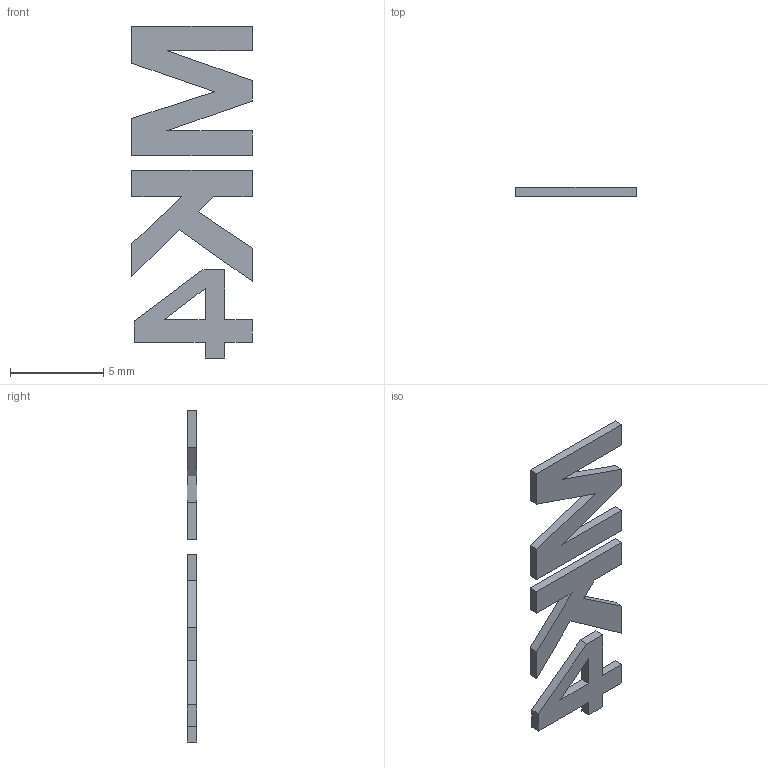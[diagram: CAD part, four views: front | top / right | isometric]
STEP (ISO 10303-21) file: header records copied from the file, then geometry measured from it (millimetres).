
FILE_DESCRIPTION(/* description */ ('STEP AP242','CAx-IF Rec.Pracs.---Representation and Presentation of Product Manufacturing Information (PMI)---4.0---2014-10-13','CAx-IF Rec.Pracs.---3D Tessellated Geometry---0.4---2014-09-14','2;1'),/* implementation_level */ '2;1');
FILE_NAME(/* name */ '643bf0a244065c201b04df4e',/* time_stamp */ '2023-04-16T12:57:07+00:00',/* author */ (''),/* organization */ (''),/* preprocessor_version */ 'ST-DEVELOPER v18.102',/* originating_system */ ' ',/* authorisation */ ' ');
FILE_SCHEMA (('AP242_MANAGED_MODEL_BASED_3D_ENGINEERING_MIM_LF { 1 0 10303 442 1 1 4 }'));
Length unit declared in the file: metre
Products named in the file (3): MK4
Bounding box: 6.45 x 0.5 x 17.79 mm (x, y, z)
Volume: 33.3 mm3; surface area: 188.2 mm2
Topology: 3 solids, 3 shells, 45 faces, 117 edges, 78 vertices
Faces by surface type: plane 45
Entity records: 1427 total; most frequent: CARTESIAN_POINT 243, ORIENTED_EDGE 234, DIRECTION 213, EDGE_CURVE 117, LINE 117, VECTOR 117, VERTEX_POINT 78, AXIS2_PLACEMENT_3D 48
